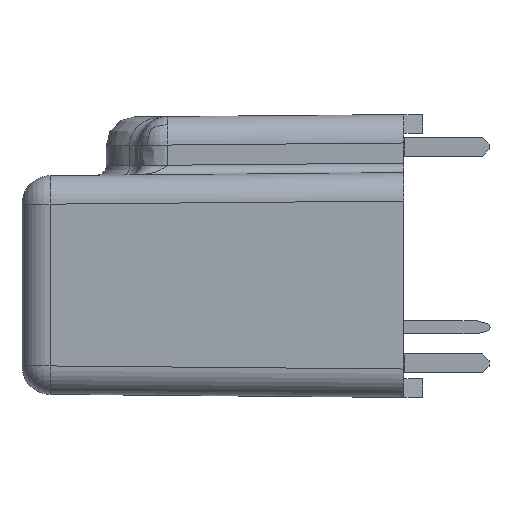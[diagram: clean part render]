
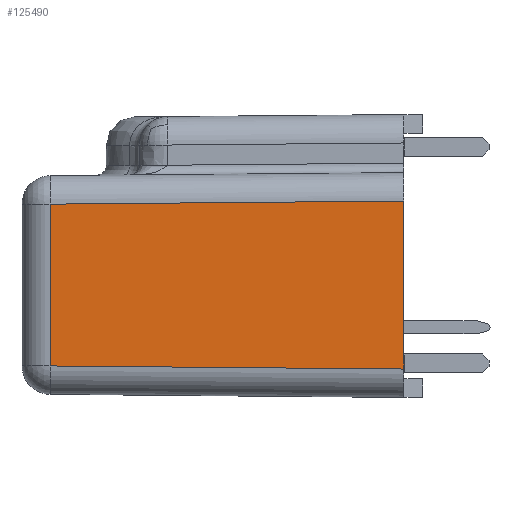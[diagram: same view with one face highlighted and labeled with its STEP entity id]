
A CAD part, left-side view. The second image highlights one B-rep face of the part: STEP entity #125490.
In plain terms, the highlighted planar face has unit normal (-1, 0.009, 0).
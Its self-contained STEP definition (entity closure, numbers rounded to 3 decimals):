
#2880=CARTESIAN_POINT('',(44.151,-4.782,
-4.705));
#2890=VERTEX_POINT('',#2880);
#2920=CARTESIAN_POINT('',(44.151,-4.782,0.));
#2930=DIRECTION('',(0.,0.,-1.));
#2940=VECTOR('',#2930,1.);
#2950=LINE('',#2920,#2940);
#2960=CARTESIAN_POINT('',(44.151,-4.782,
4.16));
#2970=VERTEX_POINT('',#2960);
#2980=EDGE_CURVE('',#2970,#2890,#2950,.T.);
#82850=CARTESIAN_POINT('',(44.314,13.881,0.));
#82860=DIRECTION('',(0.,0.,-1.));
#82870=VECTOR('',#82860,1.);
#82880=LINE('',#82850,#82870);
#82890=CARTESIAN_POINT('',(44.314,13.881,
3.997));
#82900=VERTEX_POINT('',#82890);
#82910=CARTESIAN_POINT('',(44.314,13.881,
-4.542));
#82920=VERTEX_POINT('',#82910);
#82930=EDGE_CURVE('',#82900,#82920,#82880,.T.);
#115160=CARTESIAN_POINT('',(44.193,0.013,
-4.663));
#115170=DIRECTION('',(0.009,1.,
0.009));
#115180=VECTOR('',#115170,1.);
#115190=LINE('',#115160,#115180);
#115200=EDGE_CURVE('',#2890,#82920,#115190,.T.);
#116150=CARTESIAN_POINT('',(44.193,0.013,
4.118));
#116160=DIRECTION('',(-0.009,-1.,
0.009));
#116170=VECTOR('',#116160,1.);
#116180=LINE('',#116150,#116170);
#116190=EDGE_CURVE('',#82900,#2970,#116180,.T.);
#125380=CARTESIAN_POINT('',(44.151,-4.782,0.));
#125390=DIRECTION('',(-1.,0.009,0.));
#125400=DIRECTION('',(0.009,1.,0.));
#125410=AXIS2_PLACEMENT_3D('',#125380,#125390,#125400);
#125420=PLANE('',#125410);
#125430=ORIENTED_EDGE('',*,*,#82930,.T.);
#125440=ORIENTED_EDGE('',*,*,#116190,.F.);
#125450=ORIENTED_EDGE('',*,*,#2980,.F.);
#125460=ORIENTED_EDGE('',*,*,#115200,.F.);
#125470=EDGE_LOOP('',(#125460,#125450,#125440,#125430));
#125480=FACE_OUTER_BOUND('',#125470,.T.);
#125490=ADVANCED_FACE('',(#125480),#125420,.T.);
